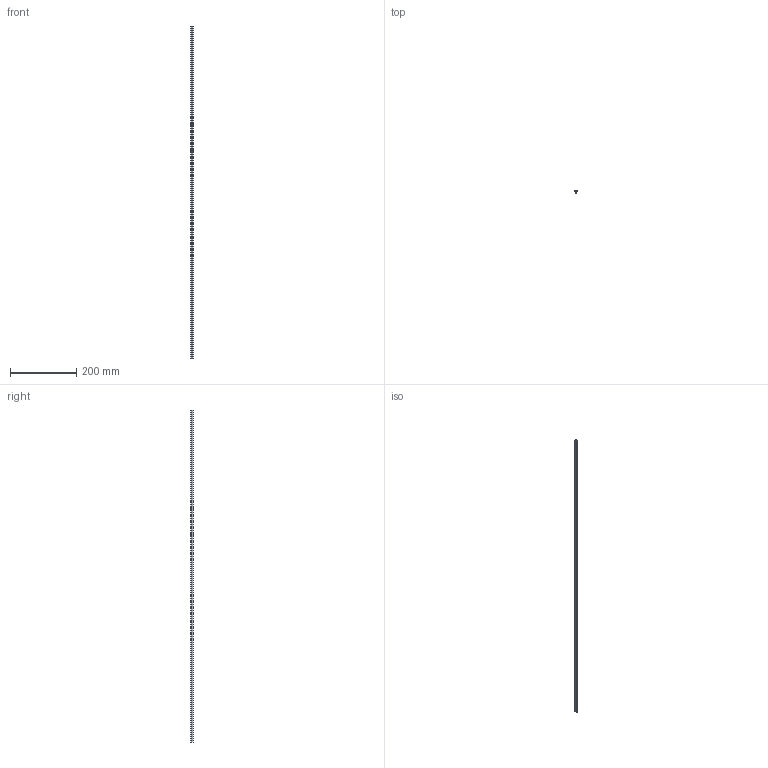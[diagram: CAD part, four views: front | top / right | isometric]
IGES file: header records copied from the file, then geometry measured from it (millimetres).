
Start section: SolidWorks IGES file using analytic representation for surfaces
Global section: file name: C:\Documents and Settings\Administrator\デスクトップ\指定保存後3回目\SolidWorks\SF\SF30\Parts\SFA-171.IGS; native system: SolidWorks 2006 by SolidWorks Corporation; preprocessor: SolidWorks 2006 by SolidWorks Corporation; author: Administrator; date: 061213.105431; units: millimetre
Bounding box: 8.6 x 9 x 1000 mm (x, y, z)
Surface area: 50787.4 mm2 (no closed solid volume)
Topology: 0 solids, 0 shells, 19 faces, 185 edges, 236 vertices
Faces by surface type: bspline 14, revolution 5
